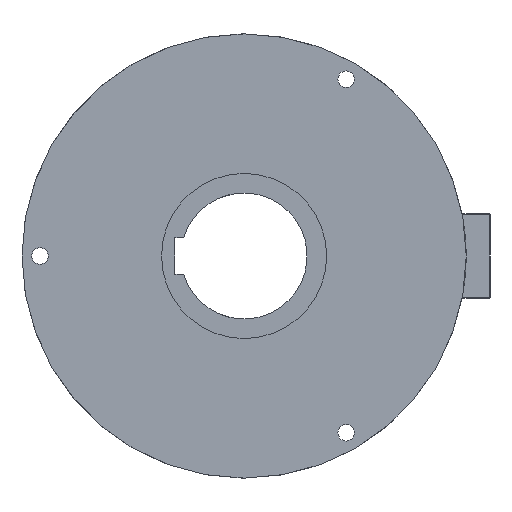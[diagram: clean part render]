
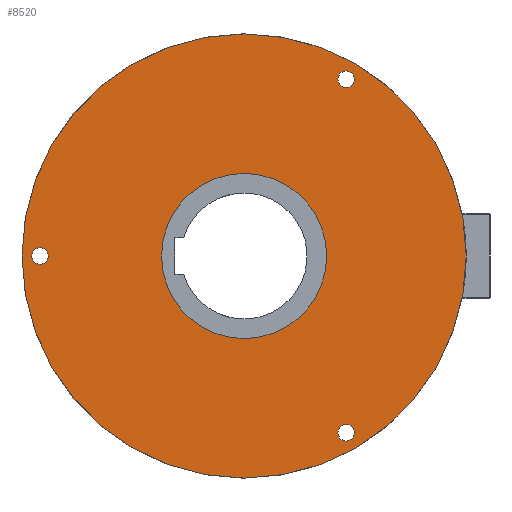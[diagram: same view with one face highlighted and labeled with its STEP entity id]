
A CAD part, left-side view. The second image highlights one B-rep face of the part: STEP entity #8520.
In plain terms, the highlighted planar face has unit normal (-1, 0, 0).
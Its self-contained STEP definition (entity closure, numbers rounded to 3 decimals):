
#150=FACE_BOUND('',#1242,.T.);
#151=FACE_BOUND('',#1243,.T.);
#152=FACE_BOUND('',#1244,.T.);
#153=FACE_BOUND('',#1245,.T.);
#336=PLANE('',#9540);
#729=FACE_OUTER_BOUND('',#1241,.T.);
#1241=EDGE_LOOP('',(#6825,#6826));
#1242=EDGE_LOOP('',(#6827));
#1243=EDGE_LOOP('',(#6828));
#1244=EDGE_LOOP('',(#6829));
#1245=EDGE_LOOP('',(#6830,#6831));
#2797=CIRCLE('',#9541,74.);
#2798=CIRCLE('',#9542,74.);
#2799=CIRCLE('',#9543,2.75);
#2800=CIRCLE('',#9544,2.75);
#2801=CIRCLE('',#9545,2.75);
#2802=CIRCLE('',#9546,27.5);
#2803=CIRCLE('',#9547,27.5);
#3631=VERTEX_POINT('',#14952);
#3632=VERTEX_POINT('',#14953);
#3633=VERTEX_POINT('',#14956);
#3634=VERTEX_POINT('',#14958);
#3635=VERTEX_POINT('',#14960);
#3636=VERTEX_POINT('',#14962);
#3637=VERTEX_POINT('',#14963);
#4735=EDGE_CURVE('',#3631,#3632,#2797,.T.);
#4736=EDGE_CURVE('',#3632,#3631,#2798,.T.);
#4737=EDGE_CURVE('',#3633,#3633,#2799,.T.);
#4738=EDGE_CURVE('',#3634,#3634,#2800,.T.);
#4739=EDGE_CURVE('',#3635,#3635,#2801,.T.);
#4740=EDGE_CURVE('',#3636,#3637,#2802,.T.);
#4741=EDGE_CURVE('',#3637,#3636,#2803,.T.);
#6825=ORIENTED_EDGE('',*,*,#4735,.T.);
#6826=ORIENTED_EDGE('',*,*,#4736,.T.);
#6827=ORIENTED_EDGE('',*,*,#4737,.T.);
#6828=ORIENTED_EDGE('',*,*,#4738,.T.);
#6829=ORIENTED_EDGE('',*,*,#4739,.T.);
#6830=ORIENTED_EDGE('',*,*,#4740,.F.);
#6831=ORIENTED_EDGE('',*,*,#4741,.F.);
#8520=ADVANCED_FACE('',(#729,#150,#151,#152,#153),#336,.T.);
#9540=AXIS2_PLACEMENT_3D('',#14951,#11989,#11990);
#9541=AXIS2_PLACEMENT_3D('',#14954,#11991,#11992);
#9542=AXIS2_PLACEMENT_3D('',#14955,#11993,#11994);
#9543=AXIS2_PLACEMENT_3D('',#14957,#11995,#11996);
#9544=AXIS2_PLACEMENT_3D('',#14959,#11997,#11998);
#9545=AXIS2_PLACEMENT_3D('',#14961,#11999,#12000);
#9546=AXIS2_PLACEMENT_3D('',#14964,#12001,#12002);
#9547=AXIS2_PLACEMENT_3D('',#14965,#12003,#12004);
#11989=DIRECTION('center_axis',(-1.,0.,0.));
#11990=DIRECTION('ref_axis',(0.,0.,
1.));
#11991=DIRECTION('center_axis',(-1.,0.,0.));
#11992=DIRECTION('ref_axis',(0.,1.,0.));
#11993=DIRECTION('center_axis',(-1.,0.,0.));
#11994=DIRECTION('ref_axis',(0.,1.,0.));
#11995=DIRECTION('center_axis',(1.,0.,0.));
#11996=DIRECTION('ref_axis',(0.,0.,
-1.));
#11997=DIRECTION('center_axis',(1.,0.,0.));
#11998=DIRECTION('ref_axis',(0.,0.,
-1.));
#11999=DIRECTION('center_axis',(1.,0.,0.));
#12000=DIRECTION('ref_axis',(0.,0.,
-1.));
#12001=DIRECTION('center_axis',(-1.,0.,0.));
#12002=DIRECTION('ref_axis',(0.,1.,0.));
#12003=DIRECTION('center_axis',(-1.,0.,0.));
#12004=DIRECTION('ref_axis',(0.,1.,0.));
#14951=CARTESIAN_POINT('Origin',(-35.75,50.75,0.));
#14952=CARTESIAN_POINT('',(-35.75,74.,0.));
#14953=CARTESIAN_POINT('',(-35.75,-74.,0.));
#14954=CARTESIAN_POINT('Origin',(-35.75,0.,0.));
#14955=CARTESIAN_POINT('Origin',(-35.75,0.,0.));
#14956=CARTESIAN_POINT('',(-35.75,-34.,61.64));
#14957=CARTESIAN_POINT('Origin',(-35.75,-34.,58.89));
#14958=CARTESIAN_POINT('',(-35.75,68.,2.75));
#14959=CARTESIAN_POINT('Origin',(-35.75,68.,0.));
#14960=CARTESIAN_POINT('',(-35.75,-34.,-56.14));
#14961=CARTESIAN_POINT('Origin',(-35.75,-34.,-58.89));
#14962=CARTESIAN_POINT('',(-35.75,27.5,0.));
#14963=CARTESIAN_POINT('',(-35.75,-27.5,0.));
#14964=CARTESIAN_POINT('Origin',(-35.75,0.,0.));
#14965=CARTESIAN_POINT('Origin',(-35.75,0.,0.));
